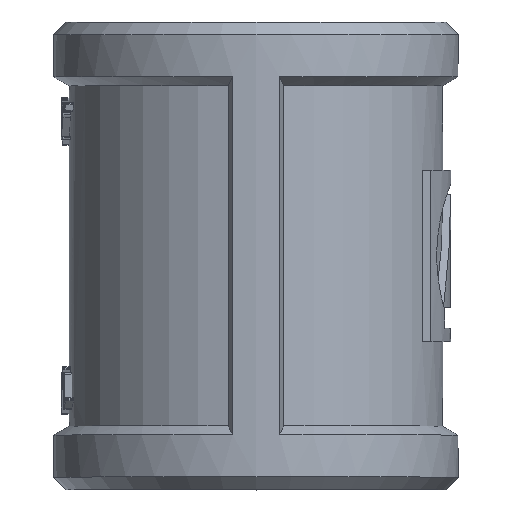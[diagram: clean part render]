
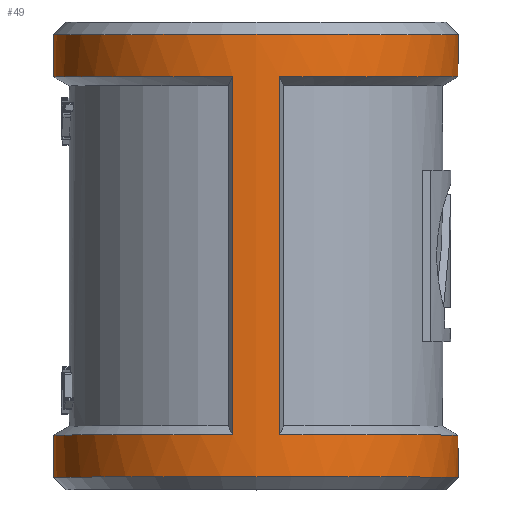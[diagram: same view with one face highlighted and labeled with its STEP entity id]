
A CAD part, top view. The second image highlights one B-rep face of the part: STEP entity #49.
In plain terms, the highlighted cylindrical face has radius 13 mm (diameter 26 mm), a full revolution.
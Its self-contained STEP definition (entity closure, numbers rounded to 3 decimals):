
#49=ADVANCED_FACE('',(#297,#299,#301,#303),#305,.T.);
#297=FACE_BOUND('',#298,.T.);
#298=EDGE_LOOP('',(#1648,#1649,#1650,#1651,#1652,#1653));
#299=FACE_OUTER_BOUND('',#300,.T.);
#300=EDGE_LOOP('',(#1654));
#301=FACE_OUTER_BOUND('',#302,.T.);
#302=EDGE_LOOP('',(#1655));
#303=FACE_BOUND('',#304,.T.);
#304=EDGE_LOOP('',(#1656,#1657,#1658,#1659));
#305=CYLINDRICAL_SURFACE('',#306,13.);
#306=AXIS2_PLACEMENT_3D('',#307,#308,#309);
#307=CARTESIAN_POINT('',(0.,-11.5,0.));
#308=DIRECTION('',(0.,1.,0.));
#309=DIRECTION('',(-1.,0.,0.));
#1648=ORIENTED_EDGE('',*,*,#3124,.F.);
#1649=ORIENTED_EDGE('',*,*,#3125,.F.);
#1650=ORIENTED_EDGE('',*,*,#3126,.F.);
#1651=ORIENTED_EDGE('',*,*,#3127,.T.);
#1652=ORIENTED_EDGE('',*,*,#3128,.F.);
#1653=ORIENTED_EDGE('',*,*,#3129,.F.);
#1654=ORIENTED_EDGE('',*,*,#3122,.F.);
#1655=ORIENTED_EDGE('',*,*,#3123,.T.);
#1656=ORIENTED_EDGE('',*,*,#3130,.F.);
#1657=ORIENTED_EDGE('',*,*,#3131,.T.);
#1658=ORIENTED_EDGE('',*,*,#3132,.F.);
#1659=ORIENTED_EDGE('',*,*,#3133,.F.);
#3122=EDGE_CURVE('',#3693,#3693,#3694,.T.);
#3123=EDGE_CURVE('',#3695,#3695,#3696,.T.);
#3124=EDGE_CURVE('',#3697,#3698,#3699,.T.);
#3125=EDGE_CURVE('',#3700,#3697,#3701,.T.);
#3126=EDGE_CURVE('',#3702,#3700,#3703,.T.);
#3127=EDGE_CURVE('',#3702,#3704,#3705,.T.);
#3128=EDGE_CURVE('',#3706,#3704,#3707,.F.);
#3129=EDGE_CURVE('',#3698,#3706,#3708,.F.);
#3130=EDGE_CURVE('',#3709,#3710,#3711,.T.);
#3131=EDGE_CURVE('',#3709,#3712,#3713,.T.);
#3132=EDGE_CURVE('',#3714,#3712,#3715,.F.);
#3133=EDGE_CURVE('',#3710,#3714,#3716,.T.);
#3693=VERTEX_POINT('',#4656);
#3694=CIRCLE('',#4657,13.);
#3695=VERTEX_POINT('',#4661);
#3696=CIRCLE('',#4662,13.);
#3697=VERTEX_POINT('',#4666);
#3698=VERTEX_POINT('',#4667);
#3699=LINE('',#4668,#4669);
#3700=VERTEX_POINT('',#4671);
#3701=CIRCLE('',#4672,13.);
#3702=VERTEX_POINT('',#4676);
#3703=CIRCLE('',#4677,13.);
#3704=VERTEX_POINT('',#4681);
#3705=LINE('',#4682,#4683);
#3706=VERTEX_POINT('',#4685);
#3707=CIRCLE('',#4686,13.);
#3708=CIRCLE('',#4690,13.);
#3709=VERTEX_POINT('',#4694);
#3710=VERTEX_POINT('',#4695);
#3711=CIRCLE('',#4696,13.);
#3712=VERTEX_POINT('',#4700);
#3713=LINE('',#4701,#4702);
#3714=VERTEX_POINT('',#4704);
#3715=CIRCLE('',#4705,13.);
#3716=LINE('',#4709,#4710);
#4656=CARTESIAN_POINT('',(-13.,14.2,0.));
#4657=AXIS2_PLACEMENT_3D('',#4658,#4659,#4660);
#4658=CARTESIAN_POINT('',(0.,14.2,0.));
#4659=DIRECTION('',(0.,1.,0.));
#4660=DIRECTION('',(-1.,0.,0.));
#4661=CARTESIAN_POINT('',(-13.,-14.2,0.));
#4662=AXIS2_PLACEMENT_3D('',#4663,#4664,#4665);
#4663=CARTESIAN_POINT('',(0.,-14.2,0.));
#4664=DIRECTION('',(0.,1.,0.));
#4665=DIRECTION('',(-1.,0.,0.));
#4666=CARTESIAN_POINT('',(-1.5,-11.5,12.913));
#4667=CARTESIAN_POINT('',(-1.5,11.5,12.913));
#4668=CARTESIAN_POINT('',(-1.5,-11.5,12.913));
#4669=VECTOR('',#4670,1.);
#4670=DIRECTION('',(0.,1.,0.));
#4671=CARTESIAN_POINT('',(-13.,-11.5,0.));
#4672=AXIS2_PLACEMENT_3D('',#4673,#4674,#4675);
#4673=CARTESIAN_POINT('',(0.,-11.5,0.));
#4674=DIRECTION('',(0.,1.,0.));
#4675=DIRECTION('',(-1.,0.,0.));
#4676=CARTESIAN_POINT('',(-1.5,-11.5,-12.913));
#4677=AXIS2_PLACEMENT_3D('',#4678,#4679,#4680);
#4678=CARTESIAN_POINT('',(0.,-11.5,0.));
#4679=DIRECTION('',(0.,1.,0.));
#4680=DIRECTION('',(-0.115,0.,-0.993));
#4681=CARTESIAN_POINT('',(-1.5,11.5,-12.913));
#4682=CARTESIAN_POINT('',(-1.5,-11.5,-12.913));
#4683=VECTOR('',#4684,1.);
#4684=DIRECTION('',(0.,1.,0.));
#4685=CARTESIAN_POINT('',(-13.,11.5,0.));
#4686=AXIS2_PLACEMENT_3D('',#4687,#4688,#4689);
#4687=CARTESIAN_POINT('',(0.,11.5,0.));
#4688=DIRECTION('',(0.,1.,0.));
#4689=DIRECTION('',(-0.115,0.,-0.993));
#4690=AXIS2_PLACEMENT_3D('',#4691,#4692,#4693);
#4691=CARTESIAN_POINT('',(0.,11.5,0.));
#4692=DIRECTION('',(0.,1.,0.));
#4693=DIRECTION('',(-1.,0.,0.));
#4694=CARTESIAN_POINT('',(1.5,-11.5,12.913));
#4695=CARTESIAN_POINT('',(1.5,-11.5,-12.913));
#4696=AXIS2_PLACEMENT_3D('',#4697,#4698,#4699);
#4697=CARTESIAN_POINT('',(0.,-11.5,0.));
#4698=DIRECTION('',(0.,1.,0.));
#4699=DIRECTION('',(0.115,0.,0.993));
#4700=CARTESIAN_POINT('',(1.5,11.5,12.913));
#4701=CARTESIAN_POINT('',(1.5,-11.5,12.913));
#4702=VECTOR('',#4703,1.);
#4703=DIRECTION('',(0.,1.,0.));
#4704=CARTESIAN_POINT('',(1.5,11.5,-12.913));
#4705=AXIS2_PLACEMENT_3D('',#4706,#4707,#4708);
#4706=CARTESIAN_POINT('',(0.,11.5,0.));
#4707=DIRECTION('',(0.,1.,0.));
#4708=DIRECTION('',(0.115,0.,0.993));
#4709=CARTESIAN_POINT('',(1.5,-11.5,-12.913));
#4710=VECTOR('',#4711,1.);
#4711=DIRECTION('',(0.,1.,0.));
